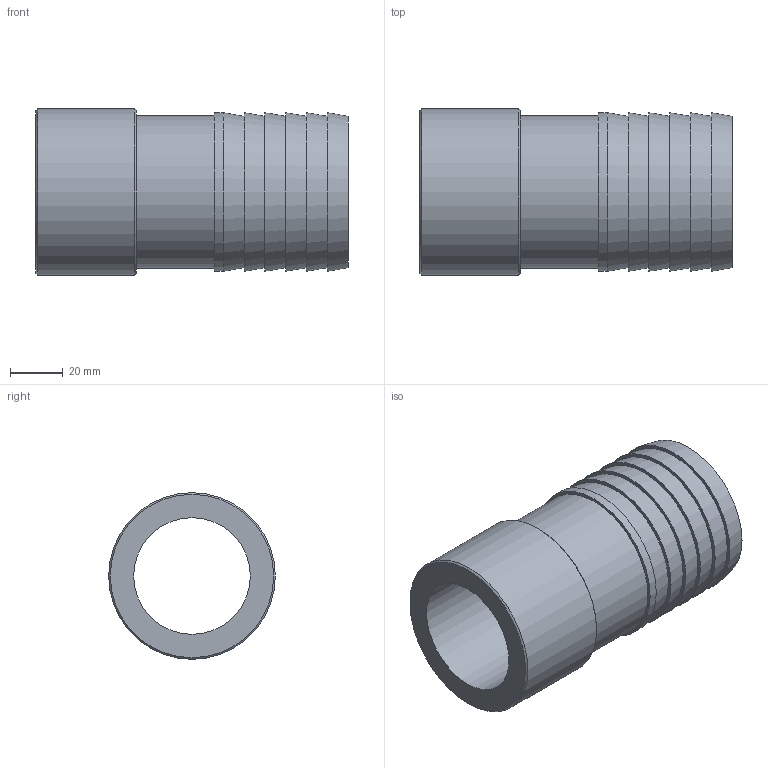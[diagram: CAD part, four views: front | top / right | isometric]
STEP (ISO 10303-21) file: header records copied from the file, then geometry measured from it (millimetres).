
FILE_DESCRIPTION(/* description */ ('PLASSON HOSE NOZZLE-CEM. PVC 63'),/* implementation_level */ '2;1');
FILE_NAME(/* name */ 'C:\Dropbox\KIMPROJECTS-Inventor\99-16-3568-Processing\PVC Catalog 2017\053600\053600063.ipt.stp',/* time_stamp */ '2017-12-07T16:03:00+02:00',/* author */ ('KIM'),/* organization */ (''),/* preprocessor_version */ 'ST-DEVELOPER v15.6',/* originating_system */ 'Autodesk Inventor 2015',/* authorisation */ '');
FILE_SCHEMA (('AUTOMOTIVE_DESIGN { 1 0 10303 214 3 1 1 }'));
Length unit declared in the file: millimetre
Products named in the file (1): 053600063
Bounding box: 118 x 63 x 63 mm (x, y, z)
Volume: 151718.1 mm3; surface area: 43152.3 mm2
Topology: 1 solids, 1 shells, 21 faces, 33 edges, 21 vertices
Faces by surface type: plane 9, cone 8, cylinder 4
Full cylindrical faces by diameter (mm): 44.1 x1, 57.6 x1, 60 x1, 63 x1
Entity records: 452 total; most frequent: DIRECTION 86, CARTESIAN_POINT 64, AXIS2_PLACEMENT_3D 43, EDGE_LOOP 42, ORIENTED_EDGE 42, FACE_BOUND 21, FACE_OUTER_BOUND 21, CIRCLE 21
